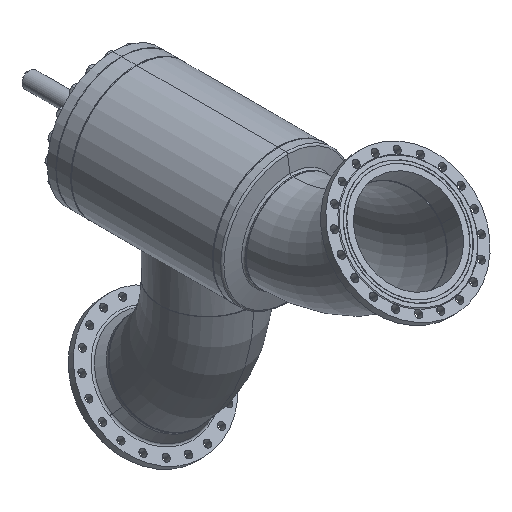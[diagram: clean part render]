
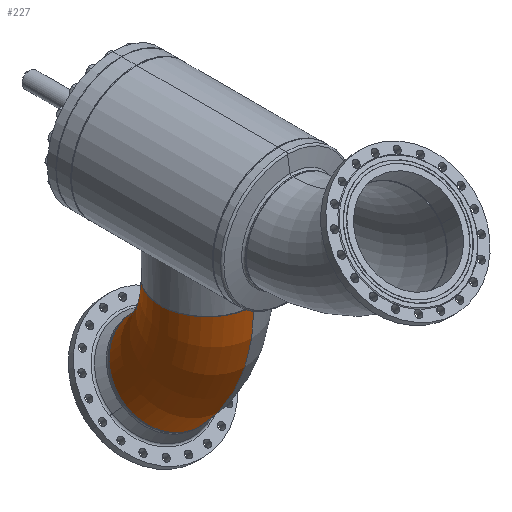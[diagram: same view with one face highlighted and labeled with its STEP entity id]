
A CAD part, isometric view. The second image highlights one B-rep face of the part: STEP entity #227.
In plain terms, the highlighted toroidal (fillet/blend) face has major radius 762 mm and minor radius 254 mm.
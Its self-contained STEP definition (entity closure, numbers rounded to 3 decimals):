
#43 = EDGE_CURVE ( 'NONE', #14770, #5354, #1112, .T. ) ;
#95 = ORIENTED_EDGE ( 'NONE', *, *, #43, .F. ) ;
#227 = ADVANCED_FACE ( 'NONE', ( #1908 ), #1909, .T. ) ;
#307 = EDGE_CURVE ( 'NONE', #13134, #5354, #2330, .T. ) ;
#337 = ORIENTED_EDGE ( 'NONE', *, *, #307, .T. ) ;
#426 = EDGE_LOOP ( 'NONE', ( #13731, #14613, #337, #95 ) ) ;
#1112 = CIRCLE ( 'NONE', #1113, 508. ) ;
#1113 = AXIS2_PLACEMENT_3D ( 'NONE', #1114, #1115, #1116 ) ;
#1114 = CARTESIAN_POINT ( 'NONE',  ( 0., -762., 0. ) ) ;
#1115 = DIRECTION ( 'NONE',  ( 0., 0., 1. ) ) ;
#1116 = DIRECTION ( 'NONE',  ( 1., 0., 0. ) ) ;
#1908 = FACE_OUTER_BOUND ( 'NONE', #426, .T. ) ;
#1909 = TOROIDAL_SURFACE ( 'NONE', #1910, 762., 254. ) ;
#1910 = AXIS2_PLACEMENT_3D ( 'NONE', #1911, #1912, #1913 ) ;
#1911 = CARTESIAN_POINT ( 'NONE',  ( 0., -762., 0. ) ) ;
#1912 = DIRECTION ( 'NONE',  ( 0., 0., 1. ) ) ;
#1913 = DIRECTION ( 'NONE',  ( 1., 0., 0. ) ) ;
#2330 = CIRCLE ( 'NONE', #2331, 254. ) ;
#2331 = AXIS2_PLACEMENT_3D ( 'NONE', #2335, #2336, #2337 ) ;
#2335 = CARTESIAN_POINT ( 'NONE',  ( 0., 0., 0. ) ) ;
#2336 = DIRECTION ( 'NONE',  ( 1., 0., 0. ) ) ;
#2337 = DIRECTION ( 'NONE',  ( 0., 0., -1. ) ) ;
#5354 = VERTEX_POINT ( 'NONE', #12457 ) ;
#9725 = CARTESIAN_POINT ( 'NONE',  ( 0., 254., 0. ) ) ;
#10160 = CIRCLE ( 'NONE', #10161, 1016. ) ;
#10161 = AXIS2_PLACEMENT_3D ( 'NONE', #10162, #10163, #10168 ) ;
#10162 = CARTESIAN_POINT ( 'NONE',  ( 0., -762., 0. ) ) ;
#10163 = DIRECTION ( 'NONE',  ( 0., 0., 1. ) ) ;
#10168 = DIRECTION ( 'NONE',  ( 1., 0., 0. ) ) ;
#10522 = CIRCLE ( 'NONE', #10523, 254. ) ;
#10523 = AXIS2_PLACEMENT_3D ( 'NONE', #10524, #10525, #10526 ) ;
#10524 = CARTESIAN_POINT ( 'NONE',  ( 538.815, -223.185, 0. ) ) ;
#10525 = DIRECTION ( 'NONE',  ( 0.707, -0.707, 0. ) ) ;
#10526 = DIRECTION ( 'NONE',  ( 0., 0., -1. ) ) ;
#11400 = CARTESIAN_POINT ( 'NONE',  ( 718.42, -43.58, 0. ) ) ;
#12309 = CARTESIAN_POINT ( 'NONE',  ( 359.21, -402.79, 0. ) ) ;
#12457 = CARTESIAN_POINT ( 'NONE',  ( 0., -254., 0. ) ) ;
#13134 = VERTEX_POINT ( 'NONE', #9725 ) ;
#13319 = EDGE_CURVE ( 'NONE', #14181, #13134, #10160, .T. ) ;
#13595 = EDGE_CURVE ( 'NONE', #14181, #14770, #10522, .T. ) ;
#13731 = ORIENTED_EDGE ( 'NONE', *, *, #13595, .F. ) ;
#14181 = VERTEX_POINT ( 'NONE', #11400 ) ;
#14613 = ORIENTED_EDGE ( 'NONE', *, *, #13319, .T. ) ;
#14770 = VERTEX_POINT ( 'NONE', #12309 ) ;
